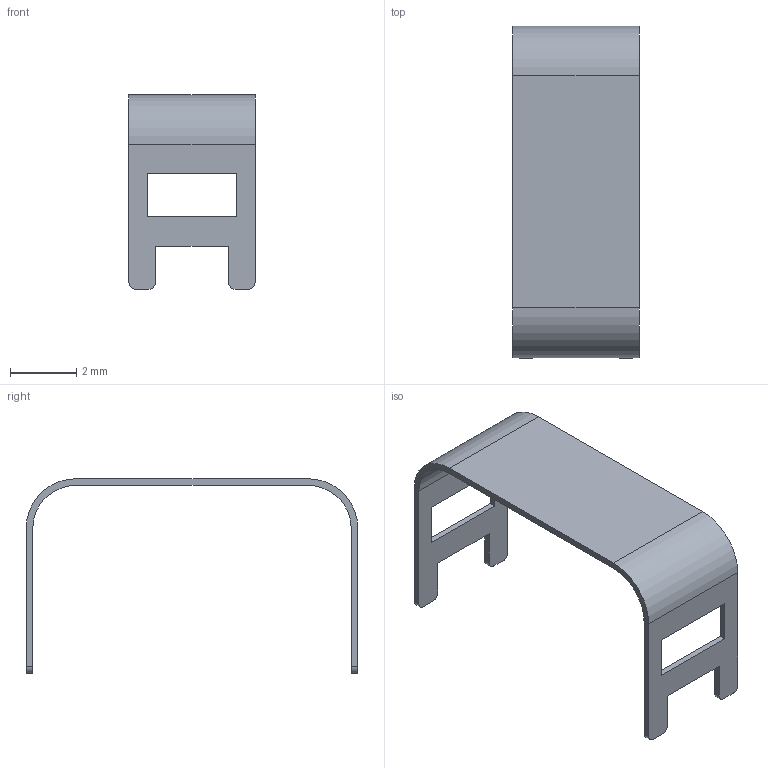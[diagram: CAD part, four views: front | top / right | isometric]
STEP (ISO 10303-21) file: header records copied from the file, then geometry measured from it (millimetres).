
FILE_DESCRIPTION(/* description */ ('STEP AP242 Edition 2','CAx-IF Rec.Pracs.---Representation and Presentation of Product Manufacturing Information (PMI)---4.0---2014-10-13','CAx-IF Rec.Pracs.---3D Tessellated Geometry---0.4---2014-09-14','2;1','CAx-IF Rec.Pracs.---User Defined Attributes---1.5---2016-08-15'),/* implementation_level */ '2;1');
FILE_NAME(/* name */ 'Assembly 1 - USB-C-SMD_MUP-U20409-2~USB-C-SMD_MUP-U20409-2~nxQB (1)',/* time_stamp */ '2026-04-02T09:55:30Z',/* author */ (''),/* organization */ (''),/* preprocessor_version */ 'ST-DEVELOPER v20',/* originating_system */ 'ONSHAPE BY PTC INC, 1.212',/* authorisation */ ' ');
FILE_SCHEMA (('AP242_MANAGED_MODEL_BASED_3D_ENGINEERING_MIM_LF { 1 0 10303 442 3 1 4 }'));
Length unit declared in the file: metre
Products named in the file (1): USB-C-SMD_MUP-U20409-2~USB-C-SMD_MUP-U20409-2~nxQB
Bounding box: 3.8 x 10 x 5.86 mm (x, y, z)
Volume: 12.7 mm3; surface area: 141 mm2
Topology: 1 solids, 1 shells, 38 faces, 108 edges, 72 vertices
Faces by surface type: plane 26, cylinder 12
Entity records: 1533 total; most frequent: CARTESIAN_POINT 219, ORIENTED_EDGE 216, DIRECTION 210, EDGE_CURVE 108, LINE 84, VECTOR 84, VERTEX_POINT 72, AXIS2_PLACEMENT_3D 63
